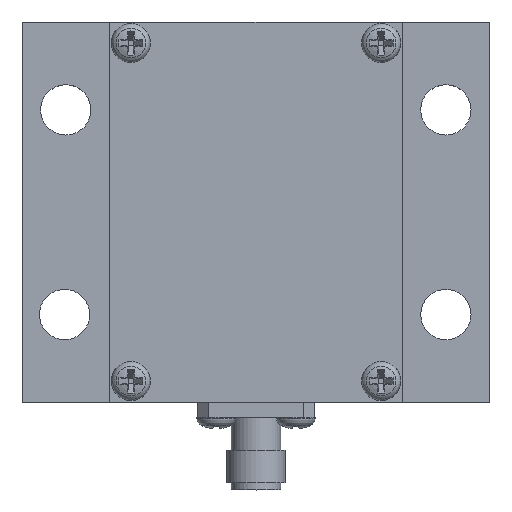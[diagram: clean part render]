
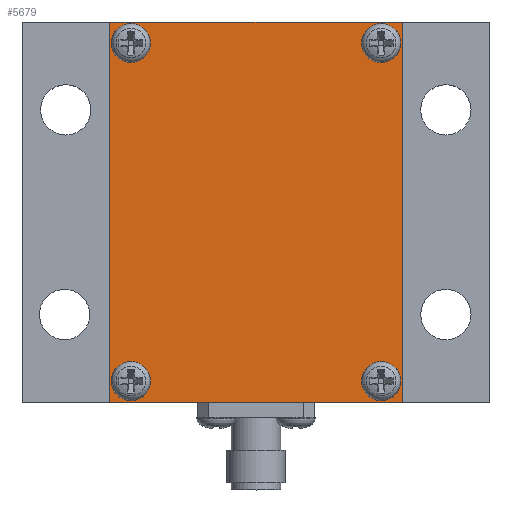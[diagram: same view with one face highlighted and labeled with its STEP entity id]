
A CAD part, top view. The second image highlights one B-rep face of the part: STEP entity #5679.
In plain terms, the highlighted planar face has unit normal (0, 0, 1).
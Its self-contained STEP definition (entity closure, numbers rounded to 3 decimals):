
#190=LINE('',#7543,#454);
#207=LINE('',#7577,#471);
#217=LINE('',#7597,#481);
#218=LINE('',#7599,#482);
#454=VECTOR('',#6255,1000.);
#471=VECTOR('',#6284,1000.);
#481=VECTOR('',#6296,1000.);
#482=VECTOR('',#6299,1000.);
#851=PLANE('',#6196);
#1922=ORIENTED_EDGE('',*,*,#2553,.T.);
#1923=ORIENTED_EDGE('',*,*,#2552,.T.);
#1924=ORIENTED_EDGE('',*,*,#2551,.T.);
#1925=ORIENTED_EDGE('',*,*,#2550,.T.);
#1926=ORIENTED_EDGE('',*,*,#2077,.T.);
#1927=ORIENTED_EDGE('',*,*,#2050,.T.);
#1928=ORIENTED_EDGE('',*,*,#2078,.T.);
#1929=ORIENTED_EDGE('',*,*,#2067,.T.);
#2050=EDGE_CURVE('',#2628,#2630,#190,.T.);
#2067=EDGE_CURVE('',#2642,#2641,#207,.T.);
#2077=EDGE_CURVE('',#2641,#2628,#217,.T.);
#2078=EDGE_CURVE('',#2630,#2642,#218,.T.);
#2550=EDGE_CURVE('',#2975,#2975,#3163,.F.);
#2551=EDGE_CURVE('',#2976,#2976,#3164,.F.);
#2552=EDGE_CURVE('',#2977,#2977,#3165,.F.);
#2553=EDGE_CURVE('',#2978,#2978,#3166,.F.);
#2628=VERTEX_POINT('',#7538);
#2630=VERTEX_POINT('',#7542);
#2641=VERTEX_POINT('',#7576);
#2642=VERTEX_POINT('',#7578);
#2975=VERTEX_POINT('',#8701);
#2976=VERTEX_POINT('',#8704);
#2977=VERTEX_POINT('',#8707);
#2978=VERTEX_POINT('',#8710);
#3163=CIRCLE('',#6157,2.121);
#3164=CIRCLE('',#6159,2.121);
#3165=CIRCLE('',#6161,2.121);
#3166=CIRCLE('',#6163,2.121);
#3449=EDGE_LOOP('',(#1922));
#3450=EDGE_LOOP('',(#1923));
#3451=EDGE_LOOP('',(#1924));
#3452=EDGE_LOOP('',(#1925));
#3453=EDGE_LOOP('',(#1926,#1927,#1928,#1929));
#3740=FACE_BOUND('',#3449,.T.);
#3741=FACE_BOUND('',#3450,.T.);
#3742=FACE_BOUND('',#3451,.T.);
#3743=FACE_BOUND('',#3452,.T.);
#3744=FACE_BOUND('',#3453,.T.);
#5679=ADVANCED_FACE('',(#3740,#3741,#3742,#3743,#3744),#851,.T.);
#6157=AXIS2_PLACEMENT_3D('',#8700,#7340,#7341);
#6159=AXIS2_PLACEMENT_3D('',#8703,#7344,#7345);
#6161=AXIS2_PLACEMENT_3D('',#8706,#7348,#7349);
#6163=AXIS2_PLACEMENT_3D('',#8709,#7352,#7353);
#6196=AXIS2_PLACEMENT_3D('',#8770,#7420,#7421);
#6255=DIRECTION('',(0.,1.,0.));
#6284=DIRECTION('',(0.,-1.,0.));
#6296=DIRECTION('',(1.,0.,0.));
#6299=DIRECTION('',(-1.,0.,0.));
#7340=DIRECTION('',(0.,0.,1.));
#7341=DIRECTION('',(1.,0.,0.));
#7344=DIRECTION('',(0.,0.,1.));
#7345=DIRECTION('',(1.,0.,0.));
#7348=DIRECTION('',(0.,0.,1.));
#7349=DIRECTION('',(1.,0.,0.));
#7352=DIRECTION('',(0.,0.,1.));
#7353=DIRECTION('',(1.,0.,0.));
#7420=DIRECTION('',(0.,0.,1.));
#7421=DIRECTION('',(1.,0.,0.));
#7538=CARTESIAN_POINT('',(15.875,0.,13.894));
#7542=CARTESIAN_POINT('',(15.875,41.275,13.894));
#7543=CARTESIAN_POINT('',(15.875,0.,13.894));
#7576=CARTESIAN_POINT('',(-15.875,0.,13.894));
#7577=CARTESIAN_POINT('',(-15.875,41.275,13.894));
#7578=CARTESIAN_POINT('',(-15.875,41.275,13.894));
#7597=CARTESIAN_POINT('',(-15.875,0.,13.894));
#7599=CARTESIAN_POINT('',(15.875,41.275,13.894));
#8700=CARTESIAN_POINT('',(-13.589,2.286,13.894));
#8701=CARTESIAN_POINT('',(-11.468,2.286,13.894));
#8703=CARTESIAN_POINT('',(13.589,2.286,13.894));
#8704=CARTESIAN_POINT('',(15.71,2.286,13.894));
#8706=CARTESIAN_POINT('',(13.589,38.989,13.894));
#8707=CARTESIAN_POINT('',(15.71,38.989,13.894));
#8709=CARTESIAN_POINT('',(-13.589,38.989,13.894));
#8710=CARTESIAN_POINT('',(-11.468,38.989,13.894));
#8770=CARTESIAN_POINT('',(0.,20.638,13.894));
